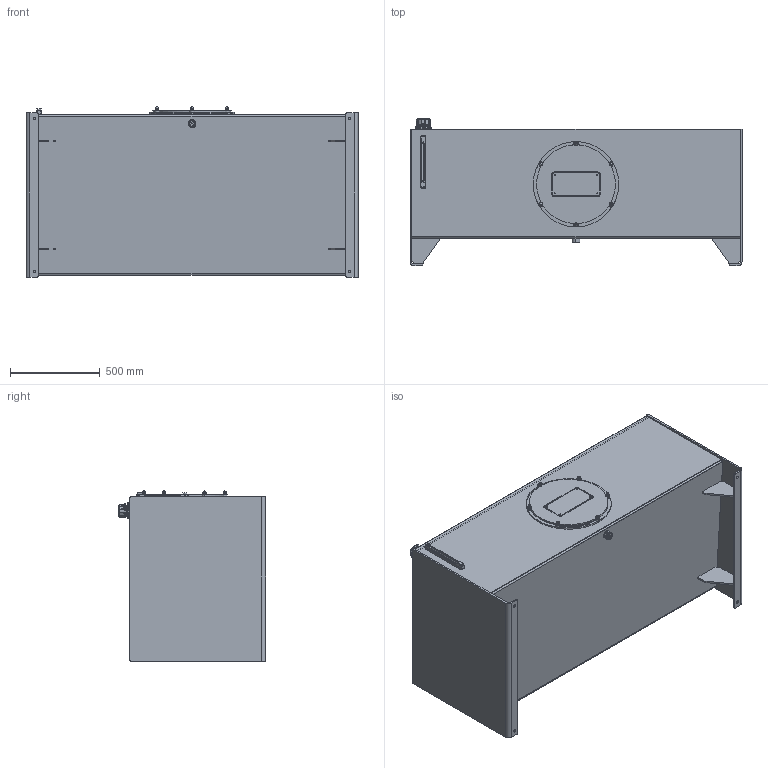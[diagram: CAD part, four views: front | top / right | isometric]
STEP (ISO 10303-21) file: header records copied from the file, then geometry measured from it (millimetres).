
FILE_DESCRIPTION (( 'STEP AP214' ), '1' );
FILE_NAME ('RDIN200-AFA.STEP', '2021-10-18T13:47:08', ( 'Windows User' ), ( '' ), 'SwSTEP 2.0', 'SolidWorks 2020', '' );
FILE_SCHEMA (( 'AUTOMOTIVE_DESIGN' ));
Length unit declared in the file: inch
Products named in the file (24): NAC100-15; REC-M475C; 8162-010-2_4534K46; QSTSBUR00080008; RDIN200-AFA-REND; RHJ-PLUG-016; RDIN200-AFA-GUSSET2; RDIN200-AFA-TOP; S16; RDIN200-AFA-GUSSET1; FB-H008W; FB-S-W; RHJ-PLUG-200; Weld Riser; BHS8100-15350; PLLG-10T; RDIN200-AFA-LEND; REC-M475K; RDIN200-AFA; NHP50016-20H__.50-20_NUT_95505A615; RDIN200-AFA-BODY_RJIC020-BODY; WFZM010; FB-F008_FB-F-008; FB-C-H_FB-H008W
Assembly tree (42 placements, depth 3):
  RHJ-PLUG-016
  RHJ-PLUG-200
  RDIN200-AFA
    RDIN200-AFA-BODY_RJIC020-BODY
    RDIN200-AFA-LEND
    RDIN200-AFA-REND
    RDIN200-AFA-TOP
    Weld Riser
    FB-H008W
      FB-F008_FB-F-008
      FB-S-W
      FB-C-H_FB-H008W
    BHS8100-15350  x6
    PLLG-10T
    REC-M475K
      REC-M475C
      NAC100-15  x6
      WFZM010  x6
    S16
    8162-010-2_4534K46
    RDIN200-AFA-GUSSET1  x2
    RDIN200-AFA-GUSSET2  x2
    QSTSBUR00080008  x4
    NHP50016-20H__.50-20_NUT_95505A615  x2
Bounding box: 1847.85 x 820.36 x 947.84 mm (x, y, z)
Volume: 48993892.1 mm3; surface area: 14446851.3 mm2
Topology: 43 solids, 43 shells, 1320 faces, 3079 edges, 1831 vertices
Faces by surface type: plane 435, cylinder 417, cone 226, bspline 100, torus 94, sphere 48
Entity records: 36188 total; most frequent: CARTESIAN_POINT 9990, DIRECTION 5218, ORIENTED_EDGE 4806, EDGE_CURVE 2403, AXIS2_PLACEMENT_3D 2121, VERTEX_POINT 1445, EDGE_LOOP 1156, CIRCLE 1143
